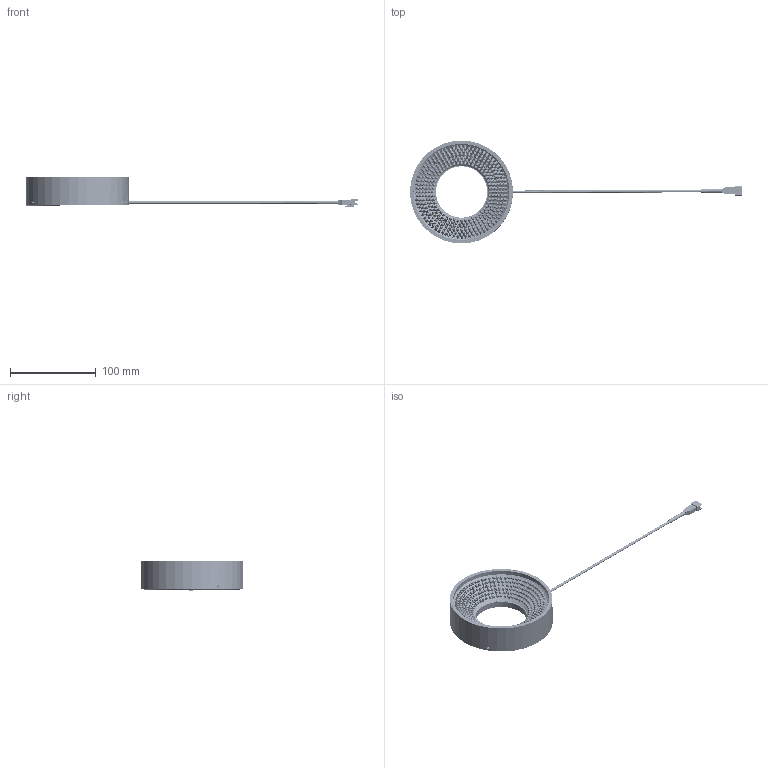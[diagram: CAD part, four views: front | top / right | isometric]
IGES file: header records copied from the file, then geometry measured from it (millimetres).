
Start section: 3D InterOp IGES (v. 2019 1.0.2), Spatial Corp. Copyright (c) 1999-2017.
Global section: file name: VBA-12060_DRAWING_3D.iges; native system: Spatial Corp.; preprocessor: 3D InterOp ACIS/IGES; author: Noname; organization: Noname; date: 20230915.164949; units: millimetre
Bounding box: 387.15 x 120 x 35.9 mm (x, y, z)
Surface area: 95196.4 mm2 (no closed solid volume)
Topology: 0 solids, 0 shells, 2588 faces, 13036 edges, 12296 vertices
Faces by surface type: revolution 2077, extrusion 501, bspline 10
